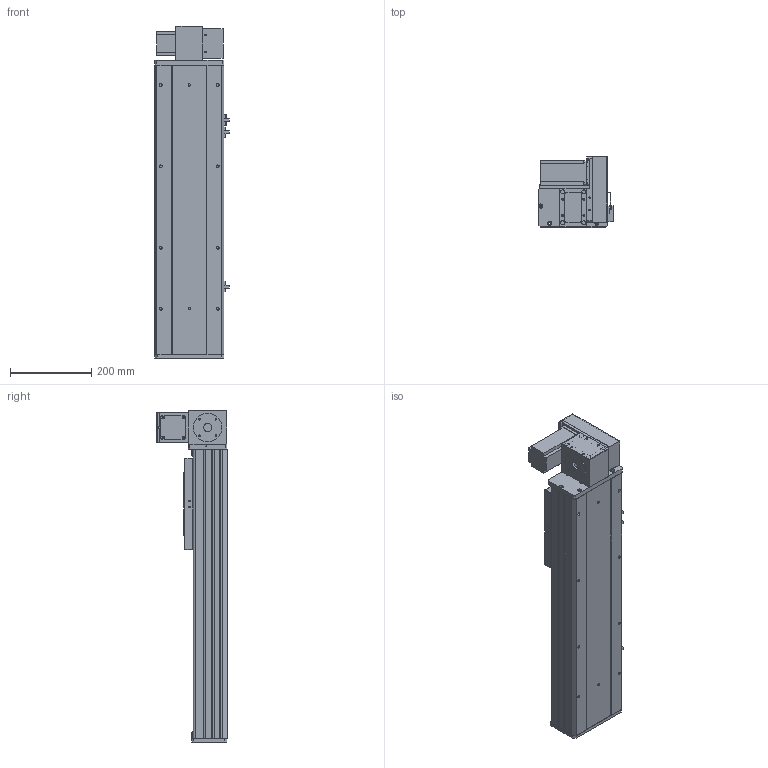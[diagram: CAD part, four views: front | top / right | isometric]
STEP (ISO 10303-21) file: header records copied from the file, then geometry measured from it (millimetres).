
FILE_DESCRIPTION (( 'STEP AP203' ), '1' );
FILE_NAME ('Y170CB-D105-S400-UR-P400W.STEP', '2020-02-20T03:43:16', ( '微软用户' ), ( '微软中国' ), 'SwSTEP 2.0', 'SolidWorks 2017', '' );
FILE_SCHEMA (( 'CONFIG_CONTROL_DESIGN' ));
Length unit declared in the file: millimetre
Products named in the file (18): 0B-萇儂楊擘啣; 70CB-詩湍--; san松下电机400不带刹车----; Y100-135俋离換覜ん--; 70CB-掛极-; Y170CB-陔俋离換覜結え---; --70CB --喘謫眊楊擘啣-; Y1埴倛裔; 70CB-耜裔啣-; 17B-耜蚾蟀諉啣----; 70C--詩湍揤踡え-; 00B-俋欶BM--163; 70CB--耜裔; 70B喘謫眊----; 70C-雄赽釱-奻-; B-源倛裔啣; Y170CB-D105-S400-UR-P400W; 0C--雄赽釱俋欶-170
Assembly tree (21 placements, depth 2):
  Y170CB-D105-S400-UR-P400W
    B-源倛裔啣
    0B-萇儂楊擘啣
    san松下电机400不带刹车----
    70CB-掛极-
    --70CB --喘謫眊楊擘啣-
    70CB-耜裔啣-  x2
    70C--詩湍揤踡え-  x2
    70CB--耜裔
    70C-雄赽釱-奻-
    0C--雄赽釱俋欶-170
    70CB-詩湍--
    Y100-135俋离換覜ん--  x3
    Y170CB-陔俋离換覜結え---
    Y1埴倛裔
    17B-耜蚾蟀諉啣----
    00B-俋欶BM--163
    70B喘謫眊----
Bounding box: 183.5 x 174 x 816 mm (x, y, z)
Volume: 4177164.7 mm3; surface area: 1483598.3 mm2
Topology: 21 solids, 21 shells, 983 faces, 2621 edges, 1738 vertices
Faces by surface type: cylinder 497, plane 462, cone 24
Entity records: 31160 total; most frequent: CARTESIAN_POINT 5676, DIRECTION 5066, ORIENTED_EDGE 4724, EDGE_CURVE 2362, AXIS2_PLACEMENT_3D 1848, VERTEX_POINT 1568, VECTOR 1370, LINE 1370
